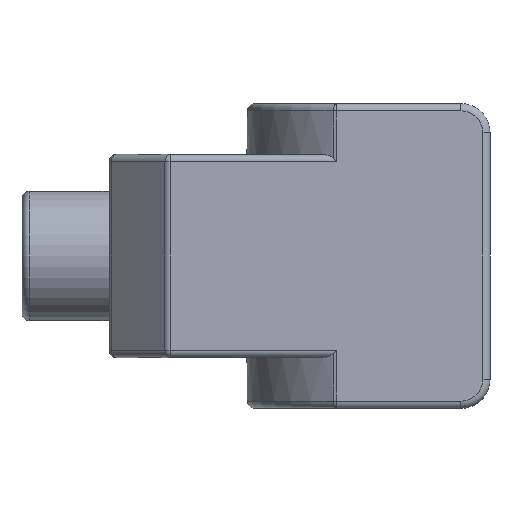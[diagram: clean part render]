
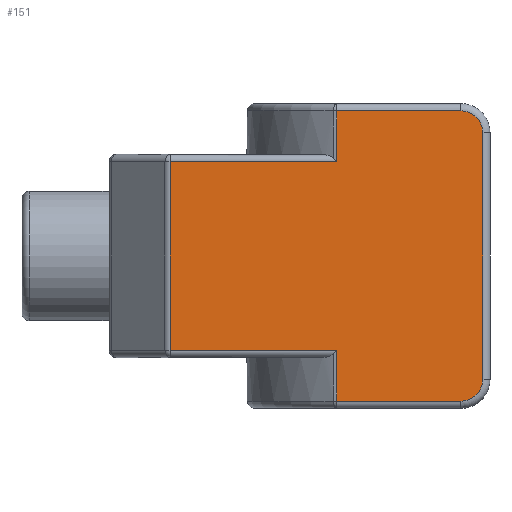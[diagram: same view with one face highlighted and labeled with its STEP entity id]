
A CAD part, left-side view. The second image highlights one B-rep face of the part: STEP entity #151.
In plain terms, the highlighted planar face has unit normal (-1, 0, 0).
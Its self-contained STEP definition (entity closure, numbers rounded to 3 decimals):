
#19 = EDGE_CURVE ( 'NONE', #1766, #3163, #3198, .T. ) ;
#29 = FACE_OUTER_BOUND ( 'NONE', #1752, .T. ) ;
#108 = ORIENTED_EDGE ( 'NONE', *, *, #811, .T. ) ;
#142 = ORIENTED_EDGE ( 'NONE', *, *, #2750, .T. ) ;
#151 = ADVANCED_FACE ( 'NONE', ( #29 ), #794, .T. ) ;
#162 = VECTOR ( 'NONE', #353, 1000. ) ;
#207 = ORIENTED_EDGE ( 'NONE', *, *, #1437, .T. ) ;
#211 = DIRECTION ( 'NONE',  ( 0., -1., 0. ) ) ;
#217 = CARTESIAN_POINT ( 'NONE',  ( -20., 1., -17. ) ) ;
#227 = ORIENTED_EDGE ( 'NONE', *, *, #2456, .T. ) ;
#228 = VECTOR ( 'NONE', #1601, 1000. ) ;
#247 = ORIENTED_EDGE ( 'NONE', *, *, #696, .T. ) ;
#261 = LINE ( 'NONE', #1483, #901 ) ;
#283 = ORIENTED_EDGE ( 'NONE', *, *, #19, .T. ) ;
#290 = CARTESIAN_POINT ( 'NONE',  ( -20., 0., -20. ) ) ;
#312 = LINE ( 'NONE', #1074, #162 ) ;
#324 = CARTESIAN_POINT ( 'NONE',  ( -20., 44.086, -13. ) ) ;
#353 = DIRECTION ( 'NONE',  ( 0., 0., 1. ) ) ;
#465 = CARTESIAN_POINT ( 'NONE',  ( -20., 4., 20. ) ) ;
#496 = ORIENTED_EDGE ( 'NONE', *, *, #1106, .T. ) ;
#499 = VERTEX_POINT ( 'NONE', #3261 ) ;
#571 = VECTOR ( 'NONE', #2919, 1000. ) ;
#662 = DIRECTION ( 'NONE',  ( 0., 0., -1. ) ) ;
#696 = EDGE_CURVE ( 'NONE', #499, #1766, #1736, .T. ) ;
#742 = CARTESIAN_POINT ( 'NONE',  ( -20., 44.086, -21. ) ) ;
#794 = PLANE ( 'NONE',  #1430 ) ;
#806 = CARTESIAN_POINT ( 'NONE',  ( -20., 0., -21. ) ) ;
#811 = EDGE_CURVE ( 'NONE', #2952, #1496, #2726, .T. ) ;
#855 = VECTOR ( 'NONE', #662, 1000. ) ;
#861 = DIRECTION ( 'NONE',  ( -1., 0., 0. ) ) ;
#871 = DIRECTION ( 'NONE',  ( 0., 0., 1. ) ) ;
#901 = VECTOR ( 'NONE', #1444, 1000. ) ;
#920 = AXIS2_PLACEMENT_3D ( 'NONE', #1895, #1899, #1902 ) ;
#923 = VECTOR ( 'NONE', #1251, 1000. ) ;
#952 = EDGE_CURVE ( 'NONE', #2180, #2426, #312, .T. ) ;
#953 = LINE ( 'NONE', #1607, #228 ) ;
#1010 = ORIENTED_EDGE ( 'NONE', *, *, #952, .T. ) ;
#1024 = LINE ( 'NONE', #742, #855 ) ;
#1074 = CARTESIAN_POINT ( 'NONE',  ( -20., 1., -21. ) ) ;
#1106 = EDGE_CURVE ( 'NONE', #2426, #2594, #2537, .T. ) ;
#1239 = CARTESIAN_POINT ( 'NONE',  ( -20., 4., -20. ) ) ;
#1251 = DIRECTION ( 'NONE',  ( 0., 0., -1. ) ) ;
#1389 = CARTESIAN_POINT ( 'NONE',  ( -20., 21.126, -21. ) ) ;
#1430 = AXIS2_PLACEMENT_3D ( 'NONE', #806, #861, #871 ) ;
#1437 = EDGE_CURVE ( 'NONE', #2146, #499, #3187, .T. ) ;
#1444 = DIRECTION ( 'NONE',  ( 0., 1., 0. ) ) ;
#1483 = CARTESIAN_POINT ( 'NONE',  ( -20., 18.987, 20. ) ) ;
#1496 = VERTEX_POINT ( 'NONE', #3138 ) ;
#1601 = DIRECTION ( 'NONE',  ( 0., 0., -1. ) ) ;
#1607 = CARTESIAN_POINT ( 'NONE',  ( -20., 21.126, 14. ) ) ;
#1691 = CARTESIAN_POINT ( 'NONE',  ( -20., 1., 17. ) ) ;
#1736 = LINE ( 'NONE', #1389, #923 ) ;
#1752 = EDGE_LOOP ( 'NONE', ( #496, #1829, #227, #108, #2211, #207, #247, #283, #142, #1010 ) ) ;
#1766 = VERTEX_POINT ( 'NONE', #2280 ) ;
#1785 = VECTOR ( 'NONE', #211, 1000. ) ;
#1829 = ORIENTED_EDGE ( 'NONE', *, *, #3100, .T. ) ;
#1881 = AXIS2_PLACEMENT_3D ( 'NONE', #2831, #2826, #2816 ) ;
#1895 = CARTESIAN_POINT ( 'NONE',  ( -20., 4., 17. ) ) ;
#1899 = DIRECTION ( 'NONE',  ( -1., 0., 0. ) ) ;
#1902 = DIRECTION ( 'NONE',  ( 0., 0., 1. ) ) ;
#2053 = CARTESIAN_POINT ( 'NONE',  ( -20., 21.126, 13. ) ) ;
#2146 = VERTEX_POINT ( 'NONE', #324 ) ;
#2180 = VERTEX_POINT ( 'NONE', #217 ) ;
#2211 = ORIENTED_EDGE ( 'NONE', *, *, #3304, .T. ) ;
#2280 = CARTESIAN_POINT ( 'NONE',  ( -20., 21.126, -20. ) ) ;
#2426 = VERTEX_POINT ( 'NONE', #1691 ) ;
#2456 = EDGE_CURVE ( 'NONE', #2808, #2952, #953, .T. ) ;
#2537 = CIRCLE ( 'NONE', #920, 3. ) ;
#2573 = VECTOR ( 'NONE', #2987, 1000. ) ;
#2594 = VERTEX_POINT ( 'NONE', #465 ) ;
#2648 = CARTESIAN_POINT ( 'NONE',  ( -20., 21.126, 20. ) ) ;
#2726 = LINE ( 'NONE', #2925, #571 ) ;
#2750 = EDGE_CURVE ( 'NONE', #3163, #2180, #2785, .T. ) ;
#2785 = CIRCLE ( 'NONE', #1881, 3. ) ;
#2808 = VERTEX_POINT ( 'NONE', #2648 ) ;
#2816 = DIRECTION ( 'NONE',  ( 0., 0., 1. ) ) ;
#2826 = DIRECTION ( 'NONE',  ( -1., 0., 0. ) ) ;
#2831 = CARTESIAN_POINT ( 'NONE',  ( -20., 4., -17. ) ) ;
#2919 = DIRECTION ( 'NONE',  ( 0., 1., 0. ) ) ;
#2925 = CARTESIAN_POINT ( 'NONE',  ( -20., 0., 13. ) ) ;
#2952 = VERTEX_POINT ( 'NONE', #2053 ) ;
#2987 = DIRECTION ( 'NONE',  ( 0., -1., 0. ) ) ;
#2990 = CARTESIAN_POINT ( 'NONE',  ( -20., 0., -13. ) ) ;
#3100 = EDGE_CURVE ( 'NONE', #2594, #2808, #261, .T. ) ;
#3138 = CARTESIAN_POINT ( 'NONE',  ( -20., 44.086, 13. ) ) ;
#3163 = VERTEX_POINT ( 'NONE', #1239 ) ;
#3187 = LINE ( 'NONE', #2990, #2573 ) ;
#3198 = LINE ( 'NONE', #290, #1785 ) ;
#3261 = CARTESIAN_POINT ( 'NONE',  ( -20., 21.126, -13. ) ) ;
#3304 = EDGE_CURVE ( 'NONE', #1496, #2146, #1024, .T. ) ;
